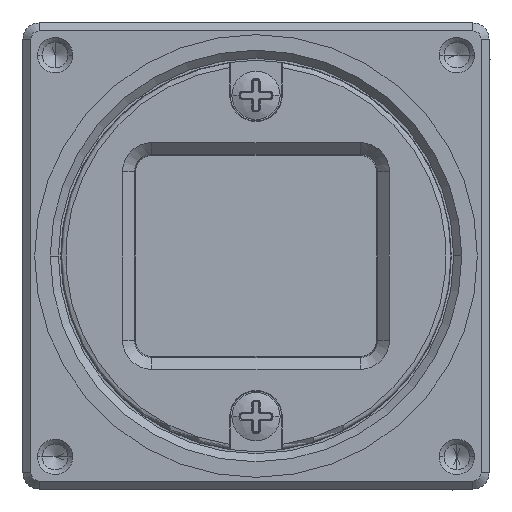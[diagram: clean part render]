
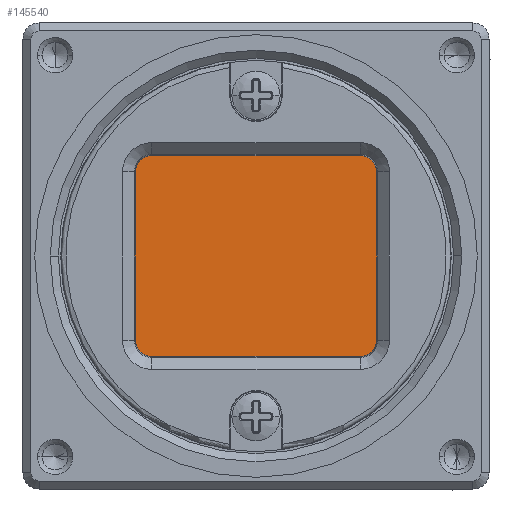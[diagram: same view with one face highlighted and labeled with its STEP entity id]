
A CAD part, left-side view. The second image highlights one B-rep face of the part: STEP entity #145540.
In plain terms, the highlighted planar face has unit normal (-1, 0, 0).
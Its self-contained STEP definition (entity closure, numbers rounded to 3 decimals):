
#53138=DIRECTION('',(0.,1.,0.));
#53139=VECTOR('',#53138,13.);
#53140=CARTESIAN_POINT('',(-5.2,-6.5,6.25));
#53141=LINE('',#53140,#53139);
#53142=CARTESIAN_POINT('',(-5.2,-6.5,5.25));
#53143=DIRECTION('',(-1.,0.,0.));
#53144=DIRECTION('',(0.,-1.,0.));
#53145=AXIS2_PLACEMENT_3D('',#53142,#53143,#53144);
#53147=DIRECTION('',(0.,0.,1.));
#53148=VECTOR('',#53147,10.5);
#53149=CARTESIAN_POINT('',(-5.2,-7.5,-5.25));
#53150=LINE('',#53149,#53148);
#53151=CARTESIAN_POINT('',(-5.2,-6.5,-5.25));
#53152=DIRECTION('',(-1.,0.,0.));
#53153=DIRECTION('',(0.,0.,-1.));
#53154=AXIS2_PLACEMENT_3D('',#53151,#53152,#53153);
#53156=DIRECTION('',(0.,-1.,0.));
#53157=VECTOR('',#53156,13.);
#53158=CARTESIAN_POINT('',(-5.2,6.5,-6.25));
#53159=LINE('',#53158,#53157);
#53160=CARTESIAN_POINT('',(-5.2,6.5,-5.25));
#53161=DIRECTION('',(-1.,0.,0.));
#53162=DIRECTION('',(0.,1.,0.));
#53163=AXIS2_PLACEMENT_3D('',#53160,#53161,#53162);
#53165=DIRECTION('',(0.,0.,-1.));
#53166=VECTOR('',#53165,10.5);
#53167=CARTESIAN_POINT('',(-5.2,7.5,5.25));
#53168=LINE('',#53167,#53166);
#53169=CARTESIAN_POINT('',(-5.2,6.5,5.25));
#53170=DIRECTION('',(-1.,0.,0.));
#53171=DIRECTION('',(0.,0.,1.));
#53172=AXIS2_PLACEMENT_3D('',#53169,#53170,#53171);
#73112=CARTESIAN_POINT('',(-5.2,-6.5,6.25));
#73113=CARTESIAN_POINT('',(-5.2,6.5,6.25));
#73114=VERTEX_POINT('',#73112);
#73115=VERTEX_POINT('',#73113);
#73116=CARTESIAN_POINT('',(-5.2,7.5,5.25));
#73117=VERTEX_POINT('',#73116);
#73118=CARTESIAN_POINT('',(-5.2,7.5,-5.25));
#73119=VERTEX_POINT('',#73118);
#73120=CARTESIAN_POINT('',(-5.2,6.5,-6.25));
#73121=VERTEX_POINT('',#73120);
#73122=CARTESIAN_POINT('',(-5.2,-6.5,-6.25));
#73123=VERTEX_POINT('',#73122);
#73124=CARTESIAN_POINT('',(-5.2,-7.5,-5.25));
#73125=VERTEX_POINT('',#73124);
#73126=CARTESIAN_POINT('',(-5.2,-7.5,5.25));
#73127=VERTEX_POINT('',#73126);
#145518=CARTESIAN_POINT('',(-5.2,0.,0.));
#145519=DIRECTION('',(1.,0.,0.));
#145520=DIRECTION('',(0.,1.,0.));
#145521=AXIS2_PLACEMENT_3D('',#145518,#145519,#145520);
#145522=PLANE('',#145521);
#145524=ORIENTED_EDGE('',*,*,#145523,.F.);
#145526=ORIENTED_EDGE('',*,*,#145525,.F.);
#145528=ORIENTED_EDGE('',*,*,#145527,.F.);
#145530=ORIENTED_EDGE('',*,*,#145529,.F.);
#145531=ORIENTED_EDGE('',*,*,#145508,.F.);
#145533=ORIENTED_EDGE('',*,*,#145532,.F.);
#145535=ORIENTED_EDGE('',*,*,#145534,.F.);
#145537=ORIENTED_EDGE('',*,*,#145536,.F.);
#145538=EDGE_LOOP('',(#145524,#145526,#145528,#145530,#145531,#145533,#145535,
#145537));
#145539=FACE_OUTER_BOUND('',#145538,.F.);
#145540=ADVANCED_FACE('',(#145539),#145522,.F.);
#53146=CIRCLE('',#53145,1.);
#53155=CIRCLE('',#53154,1.);
#53164=CIRCLE('',#53163,1.);
#53173=CIRCLE('',#53172,1.);
#145508=EDGE_CURVE('',#73121,#73123,#53159,.T.);
#145523=EDGE_CURVE('',#73114,#73115,#53141,.T.);
#145525=EDGE_CURVE('',#73127,#73114,#53146,.T.);
#145527=EDGE_CURVE('',#73125,#73127,#53150,.T.);
#145529=EDGE_CURVE('',#73123,#73125,#53155,.T.);
#145532=EDGE_CURVE('',#73119,#73121,#53164,.T.);
#145534=EDGE_CURVE('',#73117,#73119,#53168,.T.);
#145536=EDGE_CURVE('',#73115,#73117,#53173,.T.);
